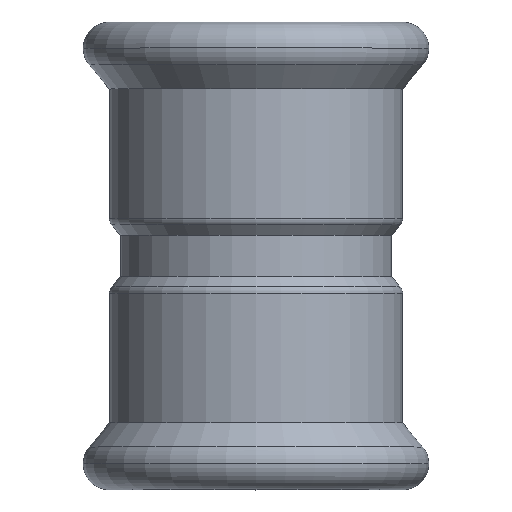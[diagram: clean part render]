
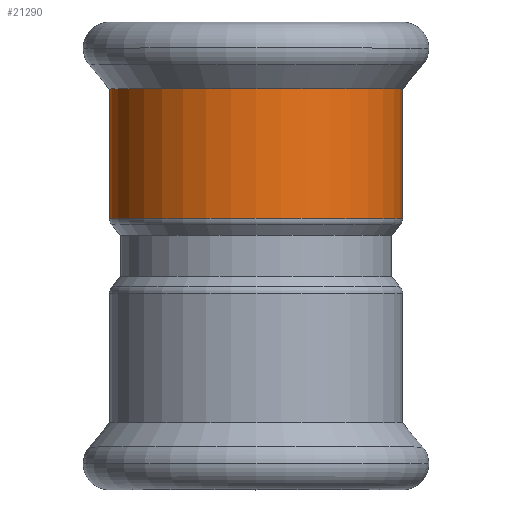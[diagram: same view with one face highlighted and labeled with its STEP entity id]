
A CAD part, top view. The second image highlights one B-rep face of the part: STEP entity #21290.
In plain terms, the highlighted cylindrical face has radius 22.7 mm (diameter 45.4 mm), a partial arc.
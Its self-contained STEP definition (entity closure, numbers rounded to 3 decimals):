
#7690=CARTESIAN_POINT('',(-72.854,199.703,0.));
#7700=VERTEX_POINT('',#7690);
#7790=CARTESIAN_POINT('',(-27.454,199.703,0.));
#7800=VERTEX_POINT('',#7790);
#7830=CARTESIAN_POINT('',(-50.154,199.703,0.));
#7840=DIRECTION('',(0.,-1.,0.));
#7850=DIRECTION('',(-1.,0.,0.));
#7860=AXIS2_PLACEMENT_3D('',#7830,#7840,#7850);
#7870=CIRCLE('',#7860,22.7);
#7930=CARTESIAN_POINT('',(-50.154,209.387,0.));
#7940=DIRECTION('',(0.,-1.,0.));
#7950=DIRECTION('',(-1.,0.,0.));
#7960=AXIS2_PLACEMENT_3D('',#7930,#7940,#7950);
#7970=CYLINDRICAL_SURFACE('',#7960,22.7);
#7980=CARTESIAN_POINT('',(-27.454,209.387,
0.));
#7990=DIRECTION('',(0.,-1.,0.));
#8000=VECTOR('',#7990,1.);
#8010=LINE('',#7980,#8000);
#8020=CARTESIAN_POINT('',(-27.454,219.789,
0.));
#8030=VERTEX_POINT('',#8020);
#8040=EDGE_CURVE('',#8030,#7800,#8010,.T.);
#8060=CARTESIAN_POINT('',(-50.154,219.789,0.));
#8070=DIRECTION('',(0.,1.,0.));
#8080=DIRECTION('',(-1.,0.,0.));
#8090=AXIS2_PLACEMENT_3D('',#8060,#8070,#8080);
#8100=CIRCLE('',#8090,22.7);
#8110=CARTESIAN_POINT('',(-72.854,219.789,0.));
#8120=VERTEX_POINT('',#8110);
#8150=CARTESIAN_POINT('',(-72.854,209.387,0.));
#8160=DIRECTION('',(0.,-1.,0.));
#8170=VECTOR('',#8160,1.);
#8180=LINE('',#8150,#8170);
#8190=EDGE_CURVE('',#8120,#7700,#8180,.T.);
#21210=EDGE_CURVE('',#7800,#7700,#7870,.T.);
#21220=ORIENTED_EDGE('',*,*,#21210,.F.);
#21230=ORIENTED_EDGE('',*,*,#8190,.T.);
#21240=EDGE_CURVE('',#8120,#8030,#8100,.T.);
#21250=ORIENTED_EDGE('',*,*,#21240,.F.);
#21260=ORIENTED_EDGE('',*,*,#8040,.F.);
#21270=EDGE_LOOP('',(#21260,#21250,#21230,#21220));
#21280=FACE_OUTER_BOUND('',#21270,.T.);
#21290=ADVANCED_FACE('',(#21280),#7970,.T.);
